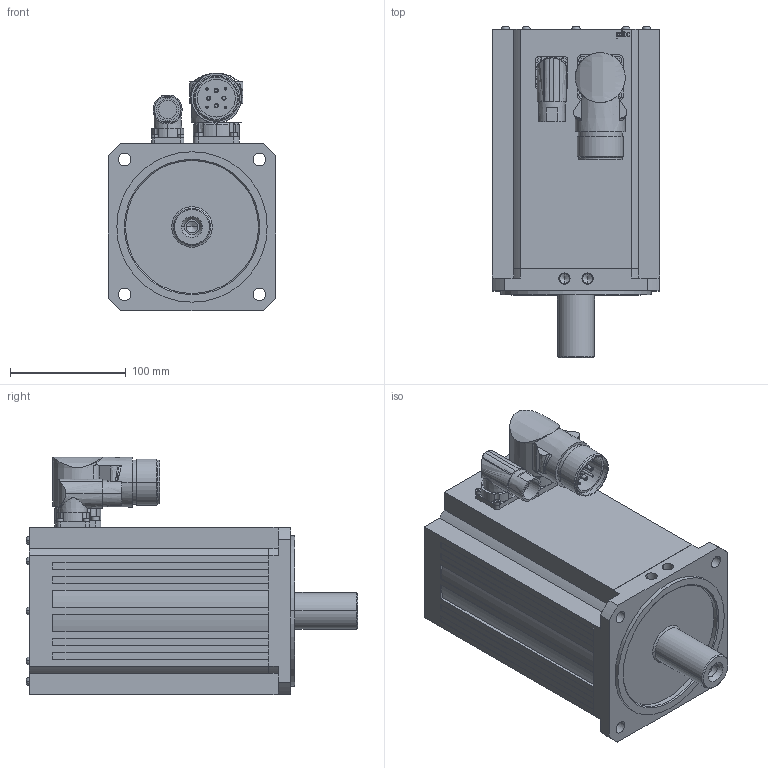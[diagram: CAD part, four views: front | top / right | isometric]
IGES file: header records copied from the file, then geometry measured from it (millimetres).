
Start section:  PTC IGES file: 2010578
Global section: file name: 2010578; native system: Pro/ENGINEER by Parametric Technology Corporation; preprocessor: 2011040; author: smayer; organization: Unknown; date: 20120620.114611; units: millimetre
Bounding box: 145 x 286.93 x 205.47 mm (x, y, z)
Surface area: 214292.1 mm2 (no closed solid volume)
Topology: 0 solids, 0 shells, 576 faces, 2908 edges, 2902 vertices
Faces by surface type: bspline 346, revolution 230
